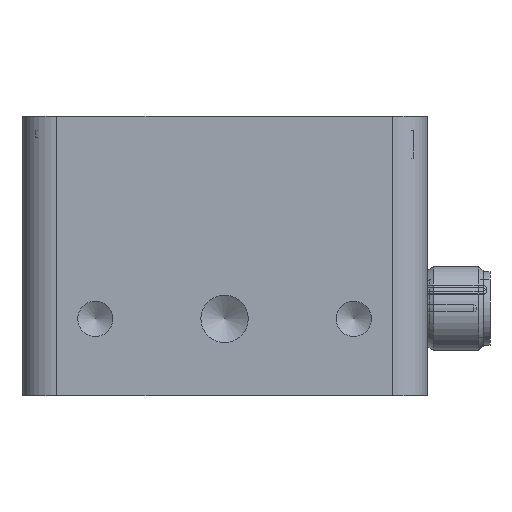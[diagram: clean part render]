
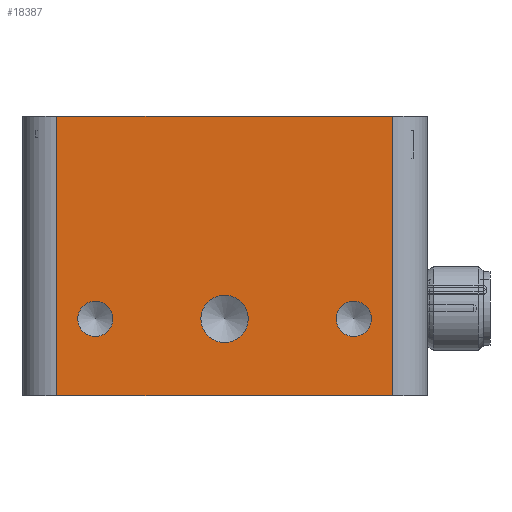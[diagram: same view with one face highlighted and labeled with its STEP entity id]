
A CAD part, left-side view. The second image highlights one B-rep face of the part: STEP entity #18387.
In plain terms, the highlighted planar face has unit normal (-1, 0, 0).
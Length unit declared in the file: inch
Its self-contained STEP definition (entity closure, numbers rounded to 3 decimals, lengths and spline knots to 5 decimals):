
#418=FACE_BOUND('',#3529,.T.);
#419=FACE_BOUND('',#3530,.T.);
#420=FACE_BOUND('',#3531,.T.);
#1296=PLANE('',#20291);
#2291=FACE_OUTER_BOUND('',#3528,.T.);
#3528=EDGE_LOOP('',(#15984,#15985,#15986,#15987));
#3529=EDGE_LOOP('',(#15988));
#3530=EDGE_LOOP('',(#15989));
#3531=EDGE_LOOP('',(#15990));
#4828=LINE('',#31803,#6119);
#4829=LINE('',#31806,#6120);
#4830=LINE('',#31808,#6121);
#4831=LINE('',#31809,#6122);
#6119=VECTOR('',#25288,0.3937);
#6120=VECTOR('',#25291,0.3937);
#6121=VECTOR('',#25292,0.3937);
#6122=VECTOR('',#25293,0.3937);
#7054=CIRCLE('',#20292,0.09911);
#7055=CIRCLE('',#20293,0.09911);
#7056=CIRCLE('',#20294,0.13345);
#8637=VERTEX_POINT('',#31799);
#8638=VERTEX_POINT('',#31801);
#8639=VERTEX_POINT('',#31805);
#8640=VERTEX_POINT('',#31807);
#8641=VERTEX_POINT('',#31810);
#8642=VERTEX_POINT('',#31812);
#8643=VERTEX_POINT('',#31814);
#11110=EDGE_CURVE('',#8638,#8637,#4828,.T.);
#11111=EDGE_CURVE('',#8639,#8638,#4829,.T.);
#11112=EDGE_CURVE('',#8640,#8639,#4830,.T.);
#11113=EDGE_CURVE('',#8637,#8640,#4831,.T.);
#11114=EDGE_CURVE('',#8641,#8641,#7054,.T.);
#11115=EDGE_CURVE('',#8642,#8642,#7055,.T.);
#11116=EDGE_CURVE('',#8643,#8643,#7056,.F.);
#15984=ORIENTED_EDGE('',*,*,#11110,.F.);
#15985=ORIENTED_EDGE('',*,*,#11111,.F.);
#15986=ORIENTED_EDGE('',*,*,#11112,.F.);
#15987=ORIENTED_EDGE('',*,*,#11113,.F.);
#15988=ORIENTED_EDGE('',*,*,#11114,.T.);
#15989=ORIENTED_EDGE('',*,*,#11115,.T.);
#15990=ORIENTED_EDGE('',*,*,#11116,.T.);
#18387=ADVANCED_FACE('',(#2291,#418,#419,#420),#1296,.F.);
#20291=AXIS2_PLACEMENT_3D('',#31804,#25289,#25290);
#20292=AXIS2_PLACEMENT_3D('',#31811,#25294,#25295);
#20293=AXIS2_PLACEMENT_3D('',#31813,#25296,#25297);
#20294=AXIS2_PLACEMENT_3D('',#31815,#25298,#25299);
#25288=DIRECTION('',(0.,0.,-1.));
#25289=DIRECTION('center_axis',(1.,0.,0.));
#25290=DIRECTION('ref_axis',(0.,0.,-1.));
#25291=DIRECTION('',(0.,-1.,0.));
#25292=DIRECTION('',(0.,0.,1.));
#25293=DIRECTION('',(0.,1.,0.));
#25294=DIRECTION('center_axis',(1.,0.,0.));
#25295=DIRECTION('ref_axis',(0.,-1.,0.));
#25296=DIRECTION('center_axis',(1.,0.,0.));
#25297=DIRECTION('ref_axis',(0.,-1.,0.));
#25298=DIRECTION('center_axis',(-1.,0.,0.));
#25299=DIRECTION('ref_axis',(0.,-1.,0.));
#31799=CARTESIAN_POINT('',(-20.66929,-0.94488,-0.00017));
#31801=CARTESIAN_POINT('',(-20.66929,-0.94488,1.57463));
#31803=CARTESIAN_POINT('',(-20.66929,-0.94488,1.55495));
#31804=CARTESIAN_POINT('Origin',(-20.66929,0.,1.53526));
#31805=CARTESIAN_POINT('',(-20.66929,0.94488,1.57463));
#31806=CARTESIAN_POINT('',(-20.66929,0.49213,1.57463));
#31807=CARTESIAN_POINT('',(-20.66929,0.94488,-0.00017));
#31808=CARTESIAN_POINT('',(-20.66929,0.94488,1.25967));
#31809=CARTESIAN_POINT('',(-20.66929,-0.55118,-0.00017));
#31810=CARTESIAN_POINT('',(-20.66929,0.82746,0.4329));
#31811=CARTESIAN_POINT('Origin',(-20.66929,0.72835,0.4329));
#31812=CARTESIAN_POINT('',(-20.66929,-0.62923,0.4329));
#31813=CARTESIAN_POINT('Origin',(-20.66929,-0.72835,0.4329));
#31814=CARTESIAN_POINT('',(-20.66929,0.13345,0.4329));
#31815=CARTESIAN_POINT('Origin',(-20.66929,0.,0.4329));
